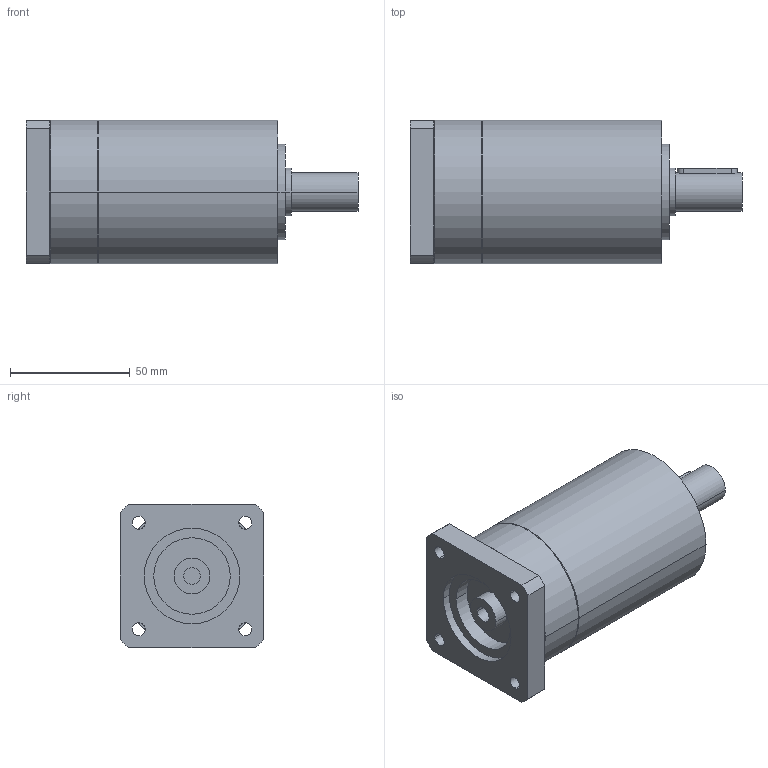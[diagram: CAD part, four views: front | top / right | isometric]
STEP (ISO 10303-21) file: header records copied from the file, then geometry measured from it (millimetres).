
FILE_DESCRIPTION(('CoCreate Modeling STEP Export'),'2;1');
FILE_NAME('GPR75_ig-9-12-16-20-24-30-36_16_B14_7_P03.stp','2014-08-25T16:05:13',(''),(''),'CoCreate Modeling STEP processor for AP214 (Solid Model)','CoCreate Modeling 16.00C 25-Feb-2009 (C) Parametric Technology GmbH','');
FILE_SCHEMA(('AUTOMOTIVE_DESIGN { 1 0 10303 214 1 1 1 1 }'));
Length unit declared in the file: millimetre
Products named in the file (2): GPR75_ig-9-12-16-20-24-30-36_16_B14_7_P03
Assembly tree (1 placements, depth 2):
  GPR75_ig-9-12-16-20-24-30-36_16_B14_7_P03
    GPR75_ig-9-12-16-20-24-30-36_16_B14_7_P03
Bounding box: 138.9 x 60 x 60 mm (x, y, z)
Volume: 303893.1 mm3; surface area: 33175.9 mm2
Topology: 1 solids, 1 shells, 86 faces, 233 edges, 161 vertices
Faces by surface type: cylinder 50, plane 30, cone 6
Entity records: 2322 total; most frequent: ORIENTED_EDGE 462, CARTESIAN_POINT 419, DIRECTION 314, EDGE_CURVE 231, VERTEX_POINT 161, AXIS2_PLACEMENT_3D 120, EDGE_LOOP 108, FACE_OUTER_BOUND 86
